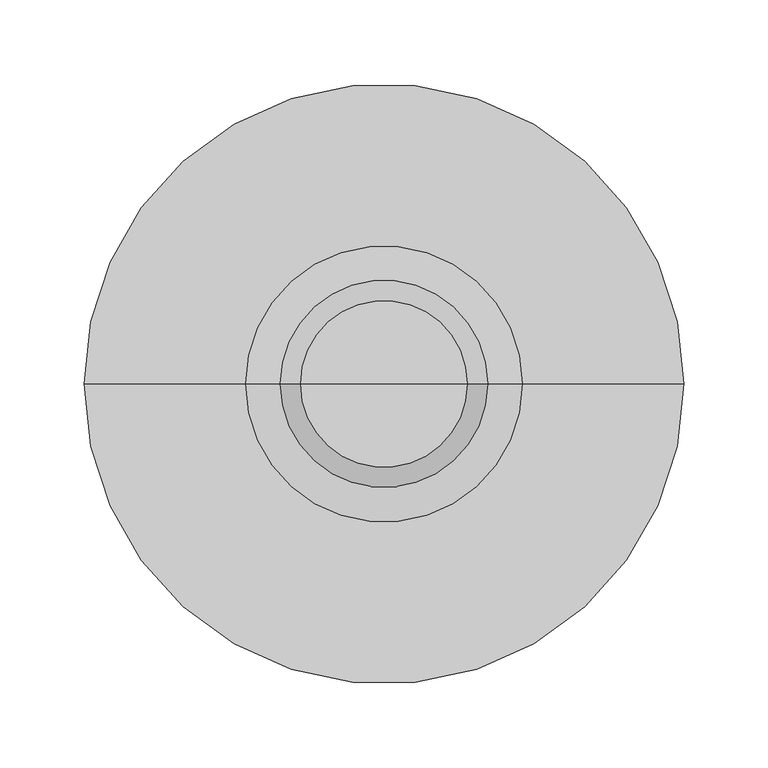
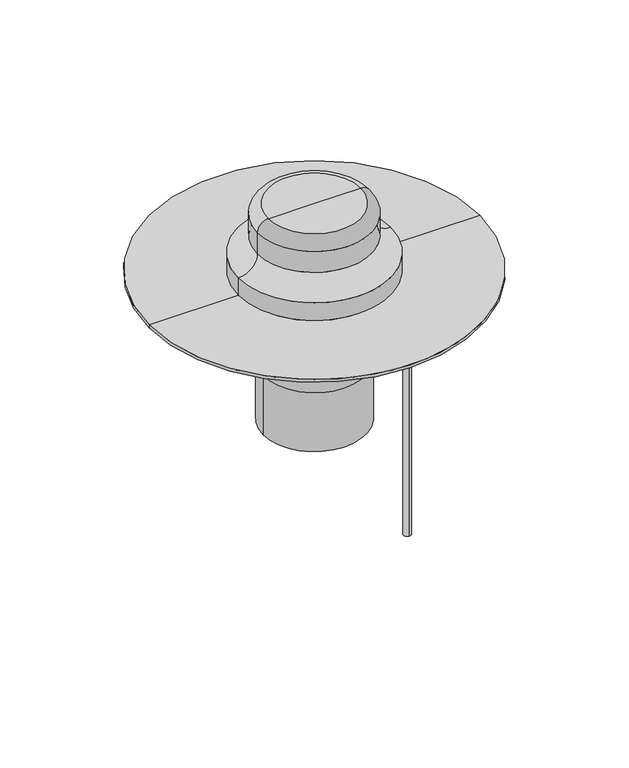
"""IFC4 building model written with IfcOpenShell, lengths in millimetres: flow terminal geometry, BIMLIB_Воронка_Кровельная_Fachmann_VMO : 110х165."""

from ifc_helpers import new_model, si_unit, point, frame, frame_2d, origin, origin_with_axes, place, context, project, spatial, polyline, circle_curve, ellipse_curve, trimmed, segment, composite_curve, outline, extrude, source, transform, mapped, element, save
from ifc_brep_helpers import plane_surface, cylinder_surface, revolved_surface, advanced_brep


def flow_terminal_81f133e3(model_context):
    return source(origin(), model_context, "Body", "SolidModel", [
        extrude(outline(composite_curve([segment(trimmed(circle_curve(frame_2d((100.0, 0.0)), 4.0), [point((100.0, 4.0))], [point((100.0, -4.0))], False, "CARTESIAN"), True, "CONTINUOUS"), segment(trimmed(circle_curve(frame_2d((100.0, 0.0)), 4.0), [point((100.0, -4.0))], [point((100.0, 4.0))], False, "CARTESIAN"), True, "CONTINUOUS")], self_intersect=False)), frame((0.0, 0.0, -332.0), z_axis=(0.0, 0.0, 1.0), x_axis=(1.0, 0.0, 0.0)), (0.0, 0.0, 1.0), 300.0),
        advanced_brep(
        [(55.0, 0.0, -165.0), (-55.0, 0.0, -165.0), (-55.0, 0.0, -98.0), (55.0, 0.0, -98.0), (-113.0, 0.0, -9.0), (113.0, 0.0, -9.0), (113.0, 0.0, -32.0), (-113.0, 0.0, -32.0), (0.0, 0.0, 0.0), (138.0, 0.0, 0.0), (-138.0, 0.0, 0.0), (-90.0, 0.0, -32.0), (90.0, 0.0, -32.0), (90.0, 0.0, -40.0), (-90.0, 0.0, -40.0)],
        [
            (0, 1, circle_curve(frame((0.0, 0.0, -165.0), z_axis=(0.0, 0.0, -1.0), x_axis=(-1.0, 0.0, 0.0)), 55.0)),
            (1, 0, circle_curve(frame((0.0, 0.0, -165.0), z_axis=(0.0, 0.0, -1.0), x_axis=(-1.0, 0.0, 0.0)), 55.0)),
            (1, 2),
            (2, 3, circle_curve(frame((0.0, 0.0, -98.0), z_axis=(0.0, 0.0, -1.0), x_axis=(-1.0, 0.0, 0.0)), 55.0)),
            (3, 0),
            (3, 2, circle_curve(frame((0.0, 0.0, -98.0), z_axis=(0.0, 0.0, -1.0), x_axis=(-1.0, 0.0, 0.0)), 55.0)),
            (4, 5, circle_curve(frame((0.0, 0.0, -9.0), z_axis=(0.0, 0.0, -1.0), x_axis=(1.0, 0.0, 0.0)), 113.0)),
            (5, 6),
            (6, 7, circle_curve(frame((0.0, 0.0, -32.0), z_axis=(0.0, 0.0, 1.0), x_axis=(1.0, 0.0, 0.0)), 113.0)),
            (7, 4),
            (5, 4, circle_curve(frame((0.0, 0.0, -9.0), z_axis=(0.0, 0.0, -1.0), x_axis=(1.0, 0.0, 0.0)), 113.0)),
            (7, 6, circle_curve(frame((0.0, 0.0, -32.0), z_axis=(0.0, 0.0, 1.0), x_axis=(1.0, 0.0, 0.0)), 113.0)),
            (8, 9),
            (9, 10, circle_curve(origin_with_axes(), 138.0)),
            (10, 8),
            (10, 9, circle_curve(origin_with_axes(), 138.0)),
            (4, 10),
            (9, 5),
            (11, 12, circle_curve(frame((0.0, 0.0, -32.0), z_axis=(0.0, 0.0, -1.0), x_axis=(1.0, 0.0, 0.0)), 90.0)),
            (12, 13),
            (13, 14, circle_curve(frame((0.0, 0.0, -40.0), z_axis=(0.0, 0.0, 1.0), x_axis=(1.0, 0.0, 0.0)), 90.0)),
            (14, 11),
            (12, 11, circle_curve(frame((0.0, 0.0, -32.0), z_axis=(0.0, 0.0, -1.0), x_axis=(1.0, 0.0, 0.0)), 90.0)),
            (14, 13, circle_curve(frame((0.0, 0.0, -40.0), z_axis=(0.0, 0.0, 1.0), x_axis=(1.0, 0.0, 0.0)), 90.0)),
            (6, 12),
            (11, 7),
            (13, 3),
            (2, 14),
        ],
        [
            plane_surface(frame((-55.0, 0.0, -165.0), z_axis=(0.0, 0.0, -1.0), x_axis=(0.0, 1.0, 0.0))),
            cylinder_surface(frame((0.0, 0.0, -165.0), z_axis=(0.0, 0.0, 1.0), x_axis=(-1.0, 0.0, 0.0)), 55.0),
            cylinder_surface(frame((0.0, 0.0, 159.0), z_axis=(0.0, 0.0, 1.0), x_axis=(1.0, 0.0, 0.0)), 113.0),
            plane_surface(origin_with_axes()),
            revolved_surface(polyline([(113.0, 0.0, -9.0), (138.0, 0.0, 0.0)]), (0.0, 0.0, 159.0), (0.0, 0.0, 1.0)),
            cylinder_surface(frame((0.0, 0.0, 159.0), z_axis=(0.0, 0.0, 1.0), x_axis=(1.0, 0.0, 0.0)), 90.0),
            plane_surface(frame((0.0, 0.0, -32.0), z_axis=(0.0, 0.0, -1.0), x_axis=(1.0, 0.0, 0.0))),
            revolved_surface(polyline([(55.0, 0.0, -98.0), (90.0, 0.0, -40.0)]), (0.0, 0.0, 159.0), (0.0, 0.0, 1.0)),
        ],
        [
            (0, [[1, 2]]),
            (1, [[-2, 3, 4, 5]]),
            (1, [[-1, -5, 6, -3]]),
            (2, [[7, 8, 9, 10]]),
            (2, [[-8, 11, -10, 12]]),
            (3, [[13, 14, 15]]),
            (3, [[-13, -15, 16]]),
            (4, [[-7, 17, -14, 18]]),
            (4, [[-11, -18, -16, -17]]),
            (5, [[19, 20, 21, 22]]),
            (5, [[-20, 23, -22, 24]]),
            (6, [[-9, 25, -19, 26]]),
            (6, [[-12, -26, -23, -25]]),
            (7, [[-21, 27, -4, 28]]),
            (7, [[-24, -28, -6, -27]]),
        ],
    ),
        advanced_brep(
        [(0.0, 0.0, 79.0), (49.5, 0.0, 79.0), (-49.5, 0.0, 79.0), (-178.0, 0.0, 0.0), (178.0, 0.0, 0.0), (0.0, 0.0, 0.0), (-178.0, 0.0, 3.0), (178.0, 0.0, 3.0), (-82.0, 0.0, 3.0), (82.0, 0.0, 3.0), (-61.5, 0.0, 67.0), (61.5, 0.0, 67.0), (61.5, 0.0, 43.5), (-61.5, 0.0, 43.5), (-82.0, 0.0, 23.0), (82.0, 0.0, 23.0)],
        [
            (0, 1),
            (1, 2, circle_curve(frame((0.0, 0.0, 79.0), z_axis=(0.0, 0.0, 1.0), x_axis=(1.0, 0.0, 0.0)), 49.5)),
            (2, 0),
            (2, 1, circle_curve(frame((0.0, 0.0, 79.0), z_axis=(0.0, 0.0, 1.0), x_axis=(1.0, 0.0, 0.0)), 49.5)),
            (3, 4, circle_curve(frame((0.0, 0.0, 0.0), z_axis=(0.0, 0.0, -1.0), x_axis=(1.0, 0.0, 0.0)), 178.0)),
            (4, 5),
            (5, 3),
            (4, 3, circle_curve(frame((0.0, 0.0, 0.0), z_axis=(0.0, 0.0, -1.0), x_axis=(1.0, 0.0, 0.0)), 178.0)),
            (6, 7, circle_curve(frame((0.0, 0.0, 3.0), z_axis=(0.0, 0.0, -1.0), x_axis=(1.0, 0.0, 0.0)), 178.0)),
            (7, 4),
            (3, 6),
            (7, 6, circle_curve(frame((0.0, 0.0, 3.0), z_axis=(0.0, 0.0, -1.0), x_axis=(1.0, 0.0, 0.0)), 178.0)),
            (8, 9, circle_curve(frame((0.0, 0.0, 3.0), z_axis=(0.0, 0.0, -1.0), x_axis=(1.0, 0.0, 0.0)), 82.0)),
            (9, 7),
            (6, 8),
            (9, 8, circle_curve(frame((0.0, 0.0, 3.0), z_axis=(0.0, 0.0, -1.0), x_axis=(1.0, 0.0, 0.0)), 82.0)),
            (10, 11, circle_curve(frame((0.0, 0.0, 67.0), z_axis=(0.0, 0.0, -1.0), x_axis=(1.0, 0.0, 0.0)), 61.5)),
            (11, 12),
            (12, 13, circle_curve(frame((0.0, 0.0, 43.5), z_axis=(0.0, 0.0, 1.0), x_axis=(1.0, 0.0, 0.0)), 61.5)),
            (13, 10),
            (11, 10, circle_curve(frame((0.0, 0.0, 67.0), z_axis=(0.0, 0.0, -1.0), x_axis=(1.0, 0.0, 0.0)), 61.5)),
            (13, 12, circle_curve(frame((0.0, 0.0, 43.5), z_axis=(0.0, 0.0, 1.0), x_axis=(1.0, 0.0, 0.0)), 61.5)),
            (1, 11, circle_curve(frame((49.5, 0.0, 67.0), z_axis=(0.0, 1.0, 0.0), x_axis=(1.0, 0.0, 0.0)), 12.0)),
            (10, 2, circle_curve(frame((-49.5, 0.0, 67.0), z_axis=(0.0, 1.0, 0.0), x_axis=(-1.0, 0.0, 0.0)), 12.0)),
            (14, 15, circle_curve(frame((0.0, 0.0, 23.0), z_axis=(0.0, 0.0, -1.0), x_axis=(1.0, 0.0, 0.0)), 82.0)),
            (15, 9),
            (8, 14),
            (15, 14, circle_curve(frame((0.0, 0.0, 23.0), z_axis=(0.0, 0.0, -1.0), x_axis=(1.0, 0.0, 0.0)), 82.0)),
            (12, 15, circle_curve(frame((82.0, 0.0, 43.5), z_axis=(0.0, -1.0, 0.0), x_axis=(1.0, 0.0, 0.0)), 20.5)),
            (14, 13, circle_curve(frame((-82.0, 0.0, 43.5), z_axis=(0.0, -1.0, 0.0), x_axis=(-1.0, 0.0, 0.0)), 20.5)),
        ],
        [
            plane_surface(frame((0.0, 0.0, 79.0), z_axis=(0.0, 0.0, 1.0), x_axis=(1.0, 0.0, 0.0))),
            plane_surface(frame((0.0, 0.0, 0.0), z_axis=(0.0, 0.0, -1.0), x_axis=(1.0, 0.0, 0.0))),
            cylinder_surface(frame((0.0, 0.0, 229.0), z_axis=(0.0, 0.0, 1.0), x_axis=(1.0, 0.0, 0.0)), 178.0),
            plane_surface(frame((0.0, 0.0, 3.0), z_axis=(0.0, 0.0, 1.0), x_axis=(1.0, 0.0, 0.0))),
            cylinder_surface(frame((0.0, 0.0, 229.0), z_axis=(0.0, 0.0, 1.0), x_axis=(1.0, 0.0, 0.0)), 61.5),
            revolved_surface(trimmed(ellipse_curve(frame((49.5, 0.0, 67.0), z_axis=(0.0, -1.0, 0.0), x_axis=(1.0, 0.0, 0.0)), 12.0, 12.0), [point((61.5, 0.0, 67.0))], [point((49.5, 0.0, 79.0))], True, "CARTESIAN"), (0.0, 0.0, 229.0), (0.0, 0.0, 1.0)),
            cylinder_surface(frame((0.0, 0.0, 229.0), z_axis=(0.0, 0.0, 1.0), x_axis=(1.0, 0.0, 0.0)), 82.0),
            revolved_surface(trimmed(ellipse_curve(frame((82.0, 0.0, 43.5), z_axis=(0.0, 1.0, 0.0), x_axis=(1.0, 0.0, 0.0)), 20.5, 20.5), [point((82.0, 0.0, 23.0))], [point((61.5, 0.0, 43.5))], True, "CARTESIAN"), (0.0, 0.0, 229.0), (0.0, 0.0, 1.0)),
        ],
        [
            (0, [[1, 2, 3]]),
            (0, [[-3, 4, -1]]),
            (1, [[5, 6, 7]]),
            (1, [[8, -7, -6]]),
            (2, [[9, 10, -5, 11]]),
            (2, [[12, -11, -8, -10]]),
            (3, [[13, 14, -9, 15]]),
            (3, [[16, -15, -12, -14]]),
            (4, [[17, 18, 19, 20]]),
            (4, [[21, -20, 22, -18]]),
            (5, [[-2, 23, -17, 24]]),
            (5, [[-4, -24, -21, -23]]),
            (6, [[25, 26, -13, 27]]),
            (6, [[28, -27, -16, -26]]),
            (7, [[-19, 29, -25, 30]]),
            (7, [[-22, -30, -28, -29]]),
        ],
    ),
    ])


if __name__ == "__main__":
    model = new_model("IFC4")
    model_context = context("Model", 3, world=origin())
    ifc_project = project(units=[si_unit("LENGTHUNIT", "METRE", prefix="MILLI")], contexts=[model_context])
    site = spatial("IfcSite", under=ifc_project)
    building = spatial("IfcBuilding", under=site)
    placement = place(None, origin())
    flow_terminal_shape = flow_terminal_81f133e3(model_context)
    element("IfcFlowTerminal", 1, ObjectType="BIMLIB_Воронка_Кровельная_Fachmann_VMO : 110х165", at=placement, inside=building, context=model_context, shape_type="MappedRepresentation", body=[
        mapped(flow_terminal_shape, transform((0.0, 0.0, 0.0), x_axis=(1.0, 0.0, 0.0), y_axis=(0.0, 1.0, 0.0), z_axis=(0.0, 0.0, 1.0))),
    ])
    save(model, "model.ifc")
